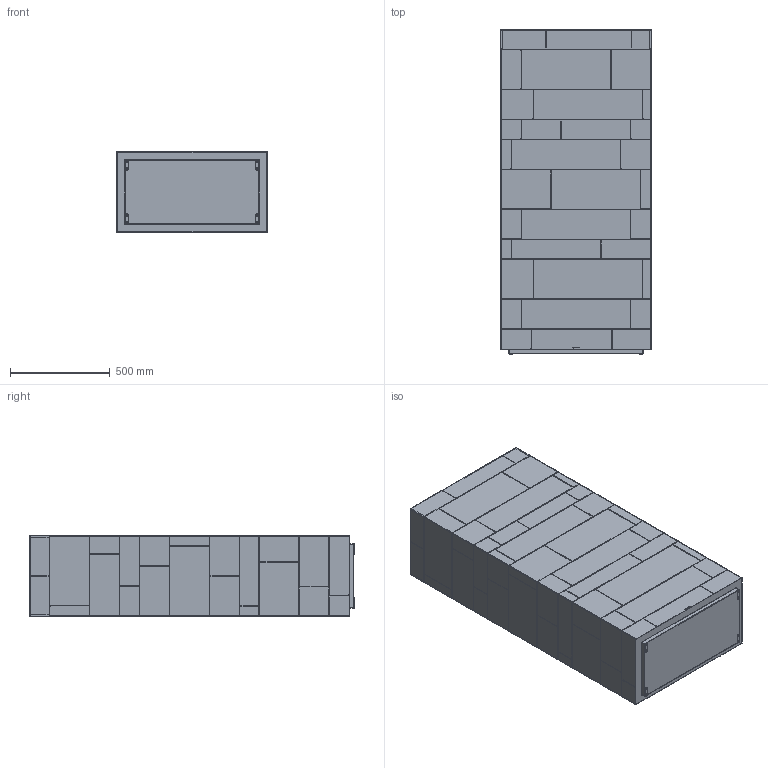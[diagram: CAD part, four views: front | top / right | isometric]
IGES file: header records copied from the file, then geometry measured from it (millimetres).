
Start section: SolidWorks IGES file using analytic representation for surfaces
Global section: file name: \\UTENTI\Dati Utenti\Tecnico\DC\2D - 3D per sito\3D\DeCastelli-3D-Celato 160 Chest of drawers.igs; native system: SolidWorks 2022; preprocessor: SolidWorks 2022; author: maria; date: 240712.143533; units: millimetre
Bounding box: 753 x 1624.7 x 403 mm (x, y, z)
Surface area: 9822692.1 mm2 (no closed solid volume)
Topology: 0 solids, 0 shells, 589 faces, 5447 edges, 5447 vertices
Faces by surface type: bspline 485, revolution 104
